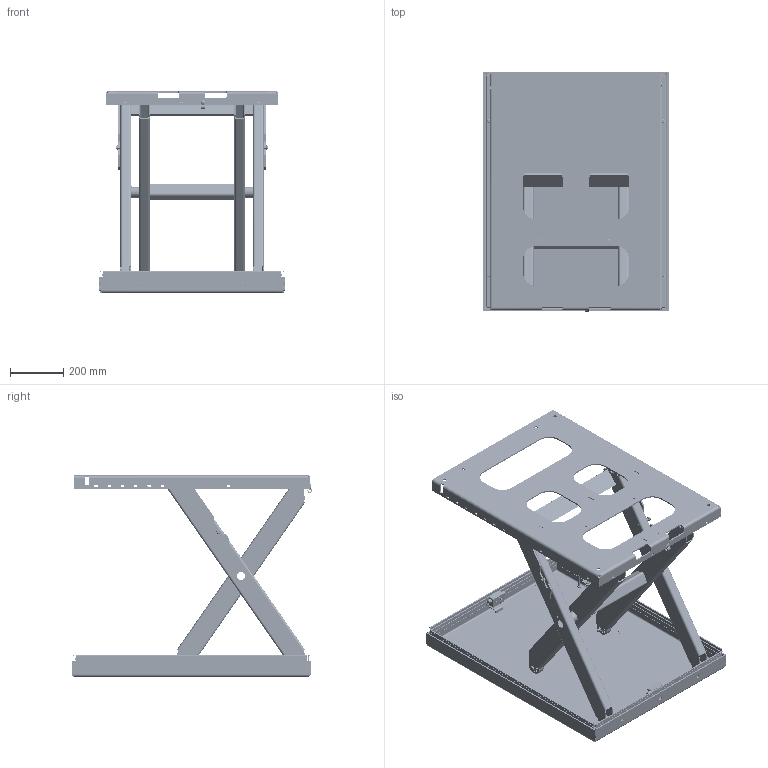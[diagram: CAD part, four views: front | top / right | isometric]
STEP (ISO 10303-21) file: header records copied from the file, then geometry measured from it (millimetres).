
FILE_DESCRIPTION(/* description */ ('TR 501 900x700'),/* implementation_level */ '2;1');
FILE_NAME(/* name */ 'C:\Autodesk_VaultWork\Ritningar\Exporterade modeller\TR 501 - (609945)\609945_Elevated.stp',/* time_stamp */ '2017-01-09T07:43:02+01:00',/* author */ ('HANVI'),/* organization */ (''),/* preprocessor_version */ 'ST-DEVELOPER v16.5',/* originating_system */ 'Autodesk Inventor 2017',/* authorisation */ '');
FILE_SCHEMA (('AUTOMOTIVE_DESIGN { 1 0 10303 214 3 1 1 }'));
Products named in the file (58): 609945; 609548; 609546; 608176; 82153 - 850; 82729 - 320; 44669; 608171; 608170; 82153 - 850_1; 608173; 82156; 600319; 600318; 44681; 600335; 600336; 45258; 84101; 42394; 35731-900x700; 43056-670; 43056-870; 42330; 43481; 80473; 33990; 33991; 44283; 44280; 44279; Compression-Spring-SF-TF1272-SS1774-04-Lesjofors-STEP; ISO 7089 - 5 - 140 HV; 84253; 44281; 44281-1; ISO 2009 - M4 x 12; 84076; 83928; 44277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
Assembly tree (121 placements, depth 5):
  609945
    609548
      609546
        608176  x2
          82153 - 850
        82729 - 320
        44669  x2
      608171
        608170  x2
          82153 - 850_1
        608173
      82156  x2
    600319
      600318
      45258  x2
      44681  x2
    600335
      600336
      45258  x2
      84101  x4
      42394  x2
    83209  x8
    35731-900x700
      43056-670  x2
      43056-870  x2
      42330  x4
      43481  x4
      80473  x4
      33990  x2
        33991
        44283
        44280
        44279
        Compression-Spring-SF-TF1272-SS1774-04-Lesjofors-STEP
        ISO 7089 - 5 - 140 HV
        84253
        44281
          44281-1
          ISO 2009 - M4 x 12
        84076
        83928
        44277
        44278
        33992
        ISO 7380 - M4 x 10
    42584  x4
    42513  x8
    32954  x2
    83242  x2
    84409  x2
    42401  x2
    82021  x2
    70015  x8
    83241  x6
    85254
    85799
    85232
    84089
    85240  x2
Bounding box: 700 x 904.99 x 761 mm (x, y, z)
Volume: 10955040.1 mm3; surface area: 5193998 mm2
Topology: 132 solids, 132 shells, 5575 faces, 14835 edges, 9762 vertices
Faces by surface type: plane 2842, cylinder 1865, bspline 518, cone 287, torus 62, sphere 1
Full cylindrical faces by diameter (mm): 0.474 x2, 1 x4, 3 x4, 3.141 x4, 3.2 x4, 3.242 x4, 4 x14, 4.3 x4, 4.9 x2, 4.917 x1, 5 x4, 5.2 x6, 5.3 x4, 6 x1, 6.4 x2, 6.647 x4, 6.7 x1, 6.8 x9, 7.4 x8, 7.6 x4, 8 x13, 8.376 x8, 8.5 x4, 10 x14, 10.5 x6, 11 x28, 11.63 x4, 12 x6, 13 x13, 14.6 x8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
Entity records: 91507 total; most frequent: CARTESIAN_POINT 25554, ORIENTED_EDGE 13548, DIRECTION 12875, EDGE_CURVE 6773, VERTEX_POINT 4557, AXIS2_PLACEMENT_3D 4296, LINE 4283, VECTOR 4283
